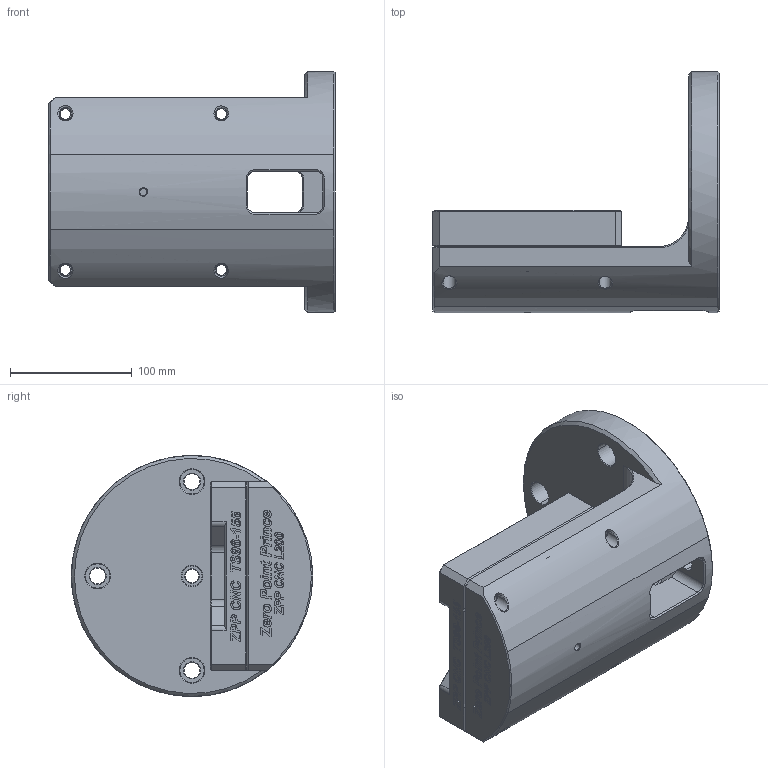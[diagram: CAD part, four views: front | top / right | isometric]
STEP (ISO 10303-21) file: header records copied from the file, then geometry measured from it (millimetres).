
FILE_DESCRIPTION((''),'2;1');
FILE_NAME('L200_NEW_VISE_ASM','2025-05-30T09:18:42',('XF'),(''),'CREO PARAMETRIC BY PTC INC, 2023073','CREO PARAMETRIC BY PTC INC, 2023073','');
FILE_SCHEMA(('CONFIG_CONTROL_DESIGN'));
Length unit declared in the file: millimetre
Products named in the file (4): TS96-155_1; L200_NEW_ASM_1_ASM; QB-L200_B; L200_NEW_VISE_ASM
Assembly tree (3 placements, depth 3):
  L200_NEW_VISE_ASM
    L200_NEW_ASM_1_ASM
      TS96-155_1
    QB-L200_B
Bounding box: 235.1 x 198 x 197.97 mm (x, y, z)
Volume: 2620719.8 mm3; surface area: 266079.9 mm2
Topology: 29 solids, 51 shells, 1598 faces, 4321 edges, 2858 vertices
Faces by surface type: extrusion 649, plane 540, cylinder 225, cone 160, bspline 16, torus 8
Entity records: 55103 total; most frequent: CARTESIAN_POINT 16847, ORIENTED_EDGE 8490, DIRECTION 6236, EDGE_CURVE 4289, VERTEX_POINT 2858, VECTOR 2810, LINE 2161, B_SPLINE_CURVE_WITH_KNOTS 2009
